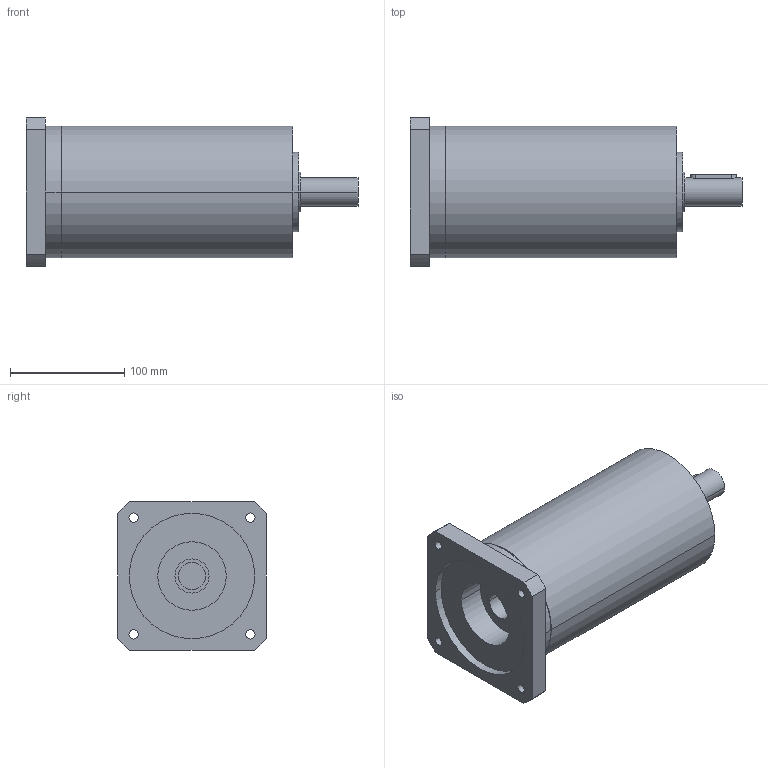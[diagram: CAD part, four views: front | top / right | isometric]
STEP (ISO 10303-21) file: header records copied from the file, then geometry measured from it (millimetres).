
FILE_DESCRIPTION(('CoCreate Modeling STEP Export'),'2;1');
FILE_NAME('GPR125_ig-48-64-80-100-140-196-245-343_25_B14_24_P11.stp','2014-08-26T14:22:31',(''),(''),'CoCreate Modeling STEP processor for AP214 (Solid Model)','CoCreate Modeling 16.00C 25-Feb-2009 (C) Parametric Technology GmbH','');
FILE_SCHEMA(('AUTOMOTIVE_DESIGN { 1 0 10303 214 1 1 1 1 }'));
Length unit declared in the file: millimetre
Products named in the file (2): GPR125_ig-48-64-80-100-140-196-245-343_25_B14_24_P11
Assembly tree (1 placements, depth 2):
  GPR125_ig-48-64-80-100-140-196-245-343_25_B14_24_P11
    GPR125_ig-48-64-80-100-140-196-245-343_25_B14_24_P11
Bounding box: 291 x 130 x 130 mm (x, y, z)
Volume: 2421217.3 mm3; surface area: 141725.9 mm2
Topology: 1 solids, 1 shells, 68 faces, 187 edges, 133 vertices
Faces by surface type: cylinder 42, plane 22, cone 4
Entity records: 1923 total; most frequent: ORIENTED_EDGE 370, CARTESIAN_POINT 362, DIRECTION 258, EDGE_CURVE 185, VERTEX_POINT 133, AXIS2_PLACEMENT_3D 97, EDGE_LOOP 90, FACE_OUTER_BOUND 68
